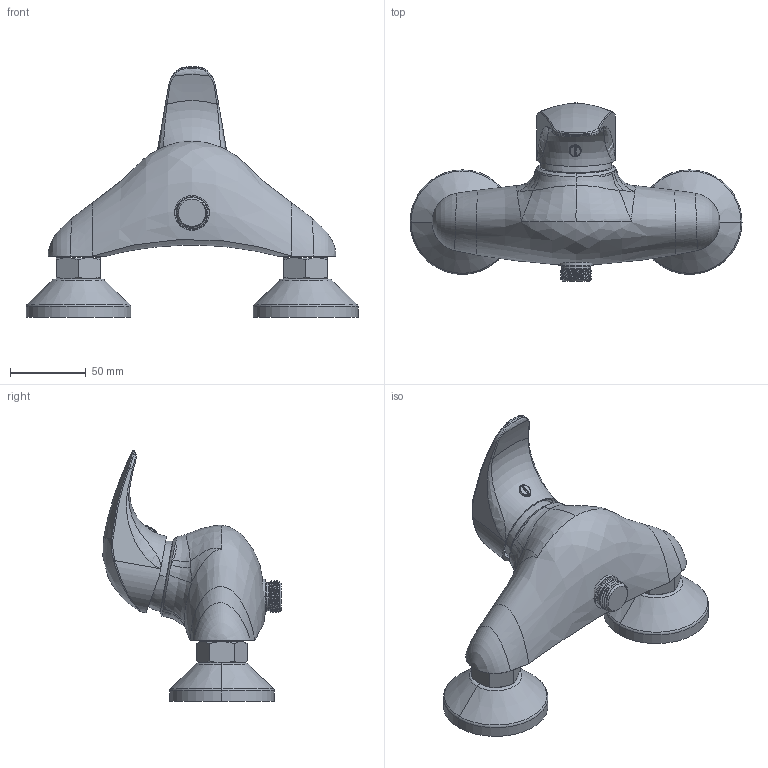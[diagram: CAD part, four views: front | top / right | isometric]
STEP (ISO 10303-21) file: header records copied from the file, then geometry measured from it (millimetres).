
FILE_DESCRIPTION((''),'2;1');
FILE_NAME('10200--_SW0001','2026-10-07T12:22:29',('simi1'),(''),'CREO PARAMETRIC BY PTC INC, 2022244','CREO PARAMETRIC BY PTC INC, 2022244','');
FILE_SCHEMA(('CONFIG_CONTROL_DESIGN'));
Length unit declared in the file: millimetre
Products named in the file (1): 10200--_SW0001
Bounding box: 219 x 117.56 x 165.56 mm (x, y, z)
Surface area: 80715.5 mm2 (no closed solid volume)
Topology: 0 solids, 29 shells, 307 faces, 1406 edges, 1108 vertices
Faces by surface type: bspline 110, plane 76, torus 37, cone 34, cylinder 34, extrusion 10, sphere 6
Entity records: 23756 total; most frequent: CARTESIAN_POINT 14873, ORIENTED_EDGE 1982, EDGE_CURVE 1403, DIRECTION 1128, VERTEX_POINT 1108, B_SPLINE_CURVE_WITH_KNOTS 957, AXIS2_PLACEMENT_3D 475, EDGE_LOOP 307
